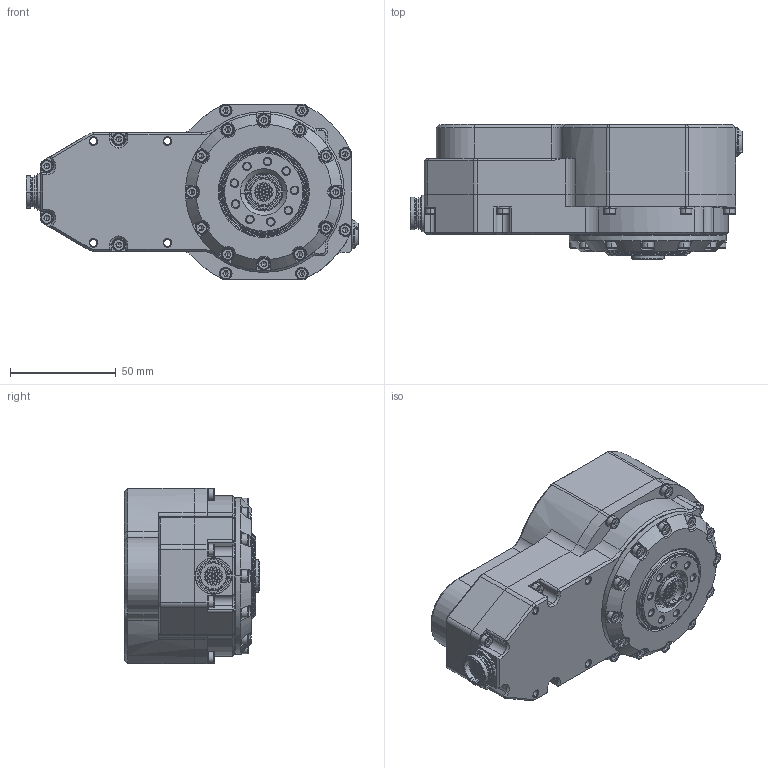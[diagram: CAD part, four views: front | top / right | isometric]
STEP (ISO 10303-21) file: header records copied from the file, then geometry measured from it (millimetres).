
FILE_DESCRIPTION (( 'STEP AP203' ), '1' );
FILE_NAME ('Ñåðâîïðèâîä 56 Íì.STEP', '2015-08-19T10:52:29', ( '' ), ( '' ), 'SwSTEP 2.0', 'SolidWorks 2015', '' );
FILE_SCHEMA (( 'CONFIG_CONTROL_DESIGN' ));
Length unit declared in the file: millimetre
Products named in the file (1): Ñåðâîïðèâîä 56 Íì
Bounding box: 156.8 x 63.8 x 83 mm (x, y, z)
Volume: 484272.3 mm3; surface area: 78339.7 mm2
Topology: 39 solids, 61 shells, 2122 faces, 4870 edges, 3004 vertices
Faces by surface type: plane 784, cylinder 776, cone 448, torus 90, bspline 24
Entity records: 61027 total; most frequent: CARTESIAN_POINT 11755, DIRECTION 11236, ORIENTED_EDGE 9562, EDGE_CURVE 4781, AXIS2_PLACEMENT_3D 4573, VERTEX_POINT 3004, CIRCLE 2474, EDGE_LOOP 2429
